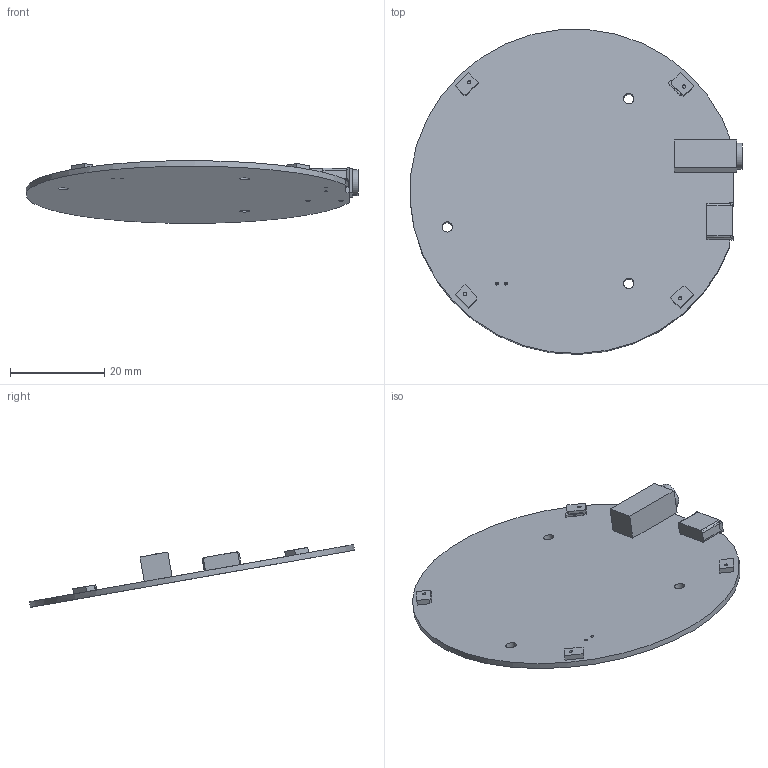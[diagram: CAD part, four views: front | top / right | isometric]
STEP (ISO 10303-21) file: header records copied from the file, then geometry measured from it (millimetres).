
FILE_DESCRIPTION(/* description */ ('STEP AP242 Edition 2','CAx-IF Rec.Pracs.---Representation and Presentation of Product Manufacturing Information (PMI)---4.0---2014-10-13','CAx-IF Rec.Pracs.---3D Tessellated Geometry---0.4---2014-09-14','2;1','CAx-IF Rec.Pracs.---User Defined Attributes---1.5---2016-08-15'),/* implementation_level */ '2;1');
FILE_NAME(/* name */ 'Assy_ForMFG - Mic_Array',/* time_stamp */ '2026-05-15T19:56:54Z',/* author */ (''),/* organization */ (''),/* preprocessor_version */ 'ST-DEVELOPER v20',/* originating_system */ 'ONSHAPE BY PTC INC, 1.215',/* authorisation */ ' ');
FILE_SCHEMA (('AP242_MANAGED_MODEL_BASED_3D_ENGINEERING_MIM_LF { 1 0 10303 442 3 1 4 }'));
Length unit declared in the file: metre
Products named in the file (1): Mic_Array
Bounding box: 70.52 x 69.05 x 13.32 mm (x, y, z)
Volume: 4951.3 mm3; surface area: 8659.8 mm2
Topology: 1 solids, 1 shells, 108 faces, 269 edges, 177 vertices
Faces by surface type: plane 80, cylinder 24, bspline 4
Full cylindrical faces by diameter (mm): 0.635 x2, 0.648 x2, 0.7 x4, 1.2 x2, 2.2 x3, 3.5 x1
Entity records: 3197 total; most frequent: CARTESIAN_POINT 675, ORIENTED_EDGE 494, DIRECTION 493, EDGE_CURVE 247, LINE 183, VECTOR 183, VERTEX_POINT 169, AXIS2_PLACEMENT_3D 155
